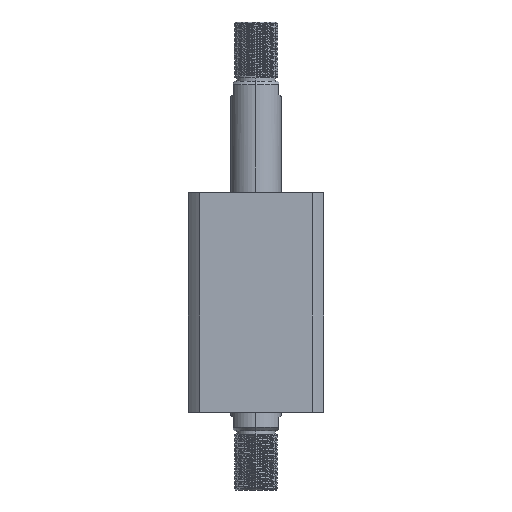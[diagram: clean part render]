
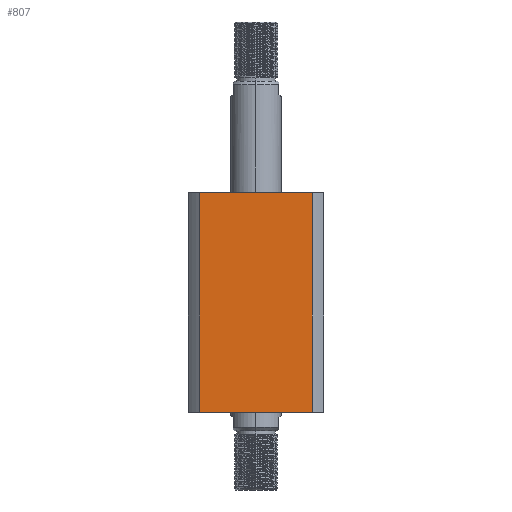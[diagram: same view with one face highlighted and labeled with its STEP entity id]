
A CAD part, left-side view. The second image highlights one B-rep face of the part: STEP entity #807.
In plain terms, the highlighted planar face has unit normal (-1, 0, 0).
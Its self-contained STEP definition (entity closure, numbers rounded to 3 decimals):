
#681 = CARTESIAN_POINT ( 'NONE',  ( -40., -33.226, 65. ) ) ;
#807 = ADVANCED_FACE ( 'NONE', ( #12568 ), #10605, .F. ) ;
#1571 = VECTOR ( 'NONE', #2096, 1000. ) ;
#1694 = AXIS2_PLACEMENT_3D ( 'NONE', #14690, #13443, #2441 ) ;
#2096 = DIRECTION ( 'NONE',  ( 0., 0., -1. ) ) ;
#2412 = ORIENTED_EDGE ( 'NONE', *, *, #3239, .F. ) ;
#2441 = DIRECTION ( 'NONE',  ( 0., 1., 0. ) ) ;
#2645 = DIRECTION ( 'NONE',  ( 0., -1., 0. ) ) ;
#3239 = EDGE_CURVE ( 'NONE', #12601, #9878, #6016, .T. ) ;
#3247 = EDGE_CURVE ( 'NONE', #9878, #7632, #8819, .T. ) ;
#3444 = CARTESIAN_POINT ( 'NONE',  ( -40., 33.226, 65. ) ) ;
#3570 = ORIENTED_EDGE ( 'NONE', *, *, #13865, .T. ) ;
#5239 = CARTESIAN_POINT ( 'NONE',  ( -40., 33.226, -65. ) ) ;
#5281 = CARTESIAN_POINT ( 'NONE',  ( -40., 33.226, 65. ) ) ;
#5824 = VECTOR ( 'NONE', #2645, 1000. ) ;
#5837 = CARTESIAN_POINT ( 'NONE',  ( -40., 33.226, -65. ) ) ;
#6016 = LINE ( 'NONE', #3444, #16054 ) ;
#7137 = EDGE_LOOP ( 'NONE', ( #13879, #8117, #2412, #3570 ) ) ;
#7632 = VERTEX_POINT ( 'NONE', #12010 ) ;
#7646 = DIRECTION ( 'NONE',  ( 0., -1., 0. ) ) ;
#7737 = EDGE_CURVE ( 'NONE', #16898, #7632, #14360, .T. ) ;
#8117 = ORIENTED_EDGE ( 'NONE', *, *, #3247, .F. ) ;
#8132 = DIRECTION ( 'NONE',  ( 0., 0., -1. ) ) ;
#8220 = LINE ( 'NONE', #5281, #10776 ) ;
#8646 = CARTESIAN_POINT ( 'NONE',  ( -40., -33.226, 65. ) ) ;
#8819 = LINE ( 'NONE', #681, #1571 ) ;
#9878 = VERTEX_POINT ( 'NONE', #8646 ) ;
#10605 = PLANE ( 'NONE',  #1694 ) ;
#10636 = CARTESIAN_POINT ( 'NONE',  ( -40., 33.226, 65. ) ) ;
#10776 = VECTOR ( 'NONE', #8132, 1000. ) ;
#12010 = CARTESIAN_POINT ( 'NONE',  ( -40., -33.226, -65. ) ) ;
#12568 = FACE_OUTER_BOUND ( 'NONE', #7137, .T. ) ;
#12601 = VERTEX_POINT ( 'NONE', #10636 ) ;
#13443 = DIRECTION ( 'NONE',  ( 1., 0., 0. ) ) ;
#13865 = EDGE_CURVE ( 'NONE', #12601, #16898, #8220, .T. ) ;
#13879 = ORIENTED_EDGE ( 'NONE', *, *, #7737, .T. ) ;
#14360 = LINE ( 'NONE', #5239, #5824 ) ;
#14690 = CARTESIAN_POINT ( 'NONE',  ( -40., 33.226, 65. ) ) ;
#16054 = VECTOR ( 'NONE', #7646, 1000. ) ;
#16898 = VERTEX_POINT ( 'NONE', #5837 ) ;
